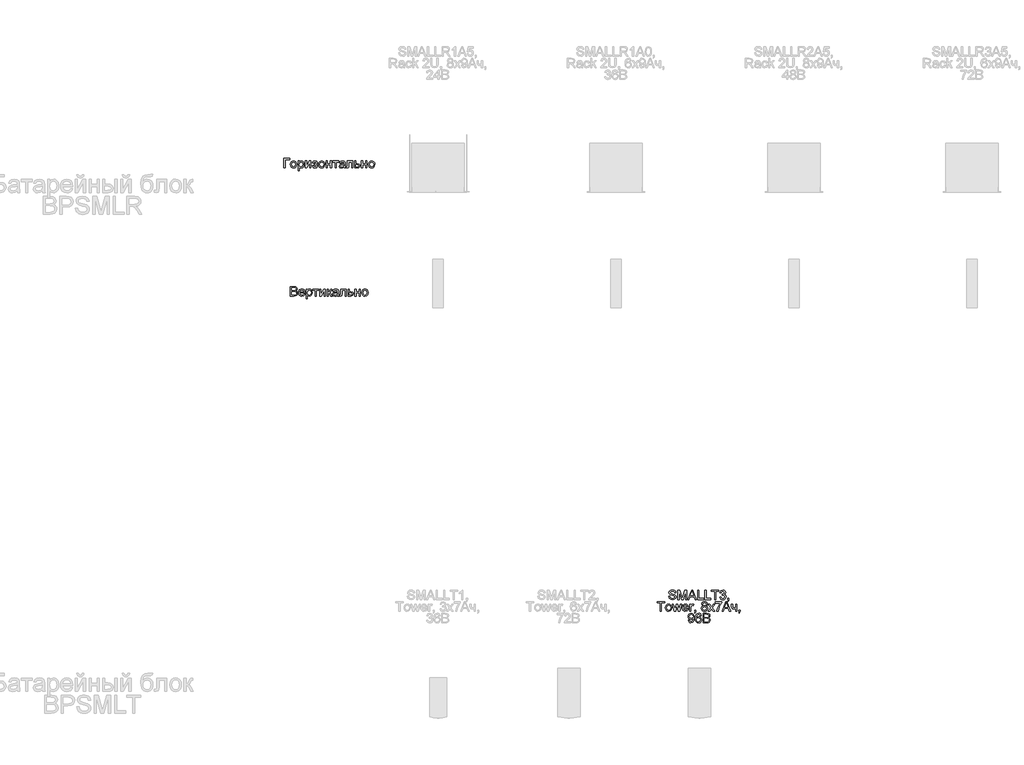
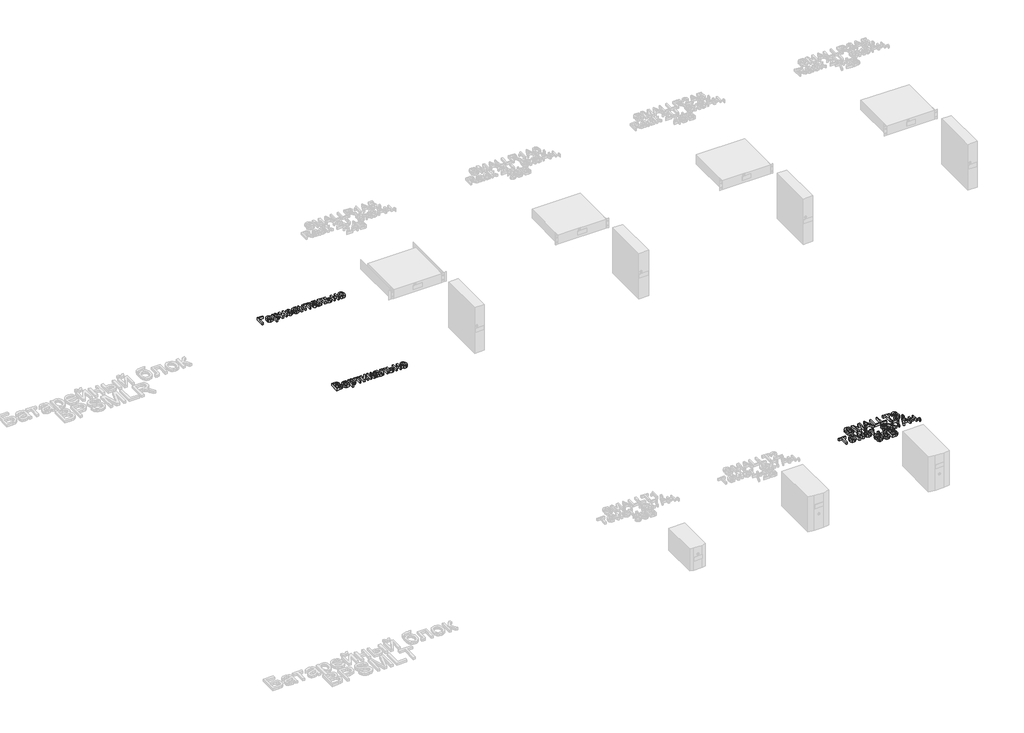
# One storey, part 15 of 74: 3 proxies.
"""IFC4 building model written with IfcOpenShell, lengths in millimetres."""

from ifc_helpers import new_model, si_unit, origin, origin_with_axes, place, context, project, spatial, polyline, outline, extrude, element, save

model = new_model("IFC4")

# Units and contexts
model_context = context("Model", 3, world=origin())
ifc_project = project(units=[si_unit("LENGTHUNIT", "METRE", prefix="MILLI")], contexts=[model_context])

# Site, building, storey
site = spatial("IfcSite", under=ifc_project)
building = spatial("IfcBuilding", under=site)
storey = spatial("IfcBuildingStorey", under=building, Name="Этаж 01", Elevation=0.0)

# Proxies
placement = place(None, origin())
element("IfcBuildingElementProxy", 1, Name="80 мм Arial", ObjectType="80 мм Arial", at=placement, inside=storey, context=model_context, shape_type="SweptSolid", body=[
    extrude(outline(polyline([(107.354428, -25110.0529622), (107.354428, -25029.6879141), (138.0210711, -25029.6879141), (153.0404667, -25032.052169), (161.9088753, -25039.3215172), (165.1168063, -25049.6025927), (162.419005, -25058.9909412), (154.26674, -25066.1033265), (164.1652182, -25073.598309), (167.6282141, -25086.0964867), (165.2639591, -25096.897502), (159.4072778, -25104.5886883), (150.6664016, -25108.6697259), (137.7856266, -25110.0529622), (107.354428, -25110.0529622)]), holes=[polyline([(117.400059, -25062.3362149), (135.7451078, -25062.3362149), (146.4578315, -25061.4729184), (152.9031241, -25057.7548577), (155.0711753, -25051.2114633), (153.0502769, -25044.6582587), (147.2622668, -25040.783235), (134.3520613, -25039.7335451), (117.400059, -25039.7335451), (117.400059, -25062.3362149)]), polyline([(117.400059, -25100.0073312), (138.0014507, -25100.0073312), (145.4571925, -25099.6149237), (151.7651425, -25097.4272521), (155.9442819, -25092.9636172), (157.5825831, -25086.1945885), (155.6597865, -25078.38568), (149.4303181, -25073.7258414), (137.0204321, -25072.3818459), (117.400059, -25072.3818459), (117.400059, -25100.0073312)])]), origin_with_axes(), (0.0, 0.0, 1.0), 20.0),
    extrude(outline(polyline([(221.5057586, -25092.4731079), (231.3551858, -25093.7288118), (222.1434207, -25106.6978784), (204.9854044, -25111.3086661), (193.1984653, -25109.3196507), (184.1289478, -25103.3526048), (178.3458429, -25093.7950305), (176.4181412, -25081.0344304), (178.3654633, -25067.8446346), (184.2074293, -25057.980492), (193.1543195, -25051.8295051), (204.4164136, -25049.7791761), (215.3277936, -25051.8246), (224.0465969, -25057.9608717), (229.7634831, -25067.8053938), (231.6691118, -25080.9755693), (231.6102507, -25083.6831808), (186.4637722, -25083.6831808), (192.2419721, -25096.7307289), (205.1816082, -25101.263035), (215.0310354, -25099.1636551), (221.5057586, -25092.4731079)]), holes=[polyline([(186.4637722, -25073.6375497), (221.6234808, -25073.6375497), (217.6013043, -25064.5336966), (204.3771729, -25059.8248071), (192.0065276, -25063.5821085), (186.4637722, -25073.6375497)])]), origin_with_axes(), (0.0, 0.0, 1.0), 20.0),
    extrude(outline(polyline([(241.7147428, -25132.655632), (241.7147428, -25051.03488), (251.7603738, -25051.03488), (251.7603738, -25060.8843072), (258.7059859, -25052.5554589), (268.0845242, -25049.7791761), (280.8181464, -25053.66401), (289.1371845, -25064.6121781), (291.9428979, -25080.0926525), (288.7742076, -25096.367752), (279.5722527, -25107.4532627), (266.8680611, -25111.3086661), (258.1271849, -25108.728587), (251.7603738, -25102.2048129), (251.7603738, -25132.655632), (241.7147428, -25132.655632)]), holes=[polyline([(251.7603738, -25081.01481), (256.1062865, -25096.318701), (266.652237, -25101.263035), (277.4140116, -25096.1421177), (281.8972669, -25080.2692358), (277.5219237, -25064.9261041), (267.0642648, -25059.8248071), (256.4005921, -25065.2498403), (251.7603738, -25081.01481)])]), origin_with_axes(), (0.0, 0.0, 1.0), 20.0),
    extrude(outline(polyline([(298.2214173, -25051.03488), (345.9381646, -25051.03488), (345.9381646, -25061.080511), (327.1026064, -25061.080511), (327.1026064, -25110.0529622), (317.0569754, -25110.0529622), (317.0569754, -25061.080511), (298.2214173, -25061.080511), (298.2214173, -25051.03488)])), origin_with_axes(), (0.0, 0.0, 1.0), 20.0),
    extrude(outline(polyline([(354.7280917, -25051.03488), (364.7737228, -25051.03488), (364.7737228, -25096.0440158), (389.4561521, -25051.03488), (402.4448391, -25051.03488), (402.4448391, -25110.0529622), (392.399208, -25110.0529622), (392.399208, -25065.3185116), (367.8737417, -25110.0529622), (354.7280917, -25110.0529622), (354.7280917, -25051.03488)])), origin_with_axes(), (0.0, 0.0, 1.0), 20.0),
    extrude(outline(polyline([(417.5132856, -25051.03488), (427.5589166, -25051.03488), (427.5589166, -25076.1489575), (434.2887046, -25074.3438832), (439.8020294, -25063.8273632), (444.3833865, -25054.7529407), (448.4251834, -25051.8000745), (455.7730131, -25051.03488), (457.6958096, -25051.03488), (457.6958096, -25061.1393721), (454.9881982, -25061.080511), (450.0831049, -25062.1400111), (446.6299192, -25068.7520769), (442.5783122, -25075.9037028), (436.8982142, -25079.4059394), (443.2355947, -25083.3152988), (449.455253, -25091.5509504), (460.2072174, -25110.0529622), (448.7881603, -25110.0529622), (438.2520199, -25091.9433578), (432.9545192, -25084.2816021), (427.5589166, -25082.4274769), (427.5589166, -25110.0529622), (417.5132856, -25110.0529622), (417.5132856, -25051.03488)])), origin_with_axes(), (0.0, 0.0, 1.0), 20.0),
    extrude(outline(polyline([(504.1568531, -25102.5187389), (494.4153379, -25109.3270084), (483.6535632, -25111.3086661), (469.0658158, -25106.5409154), (463.974329, -25094.3566637), (465.8971256, -25086.4104126), (470.9493717, -25080.6420229), (477.9832754, -25077.3458003), (486.6751007, -25075.8350315), (504.097992, -25072.3818459), (504.1568531, -25070.1451233), (501.3903805, -25062.7286223), (490.2852493, -25059.8248071), (480.1218961, -25061.7574138), (475.2756639, -25068.6147342), (465.2300329, -25067.3590304), (469.5759455, -25057.5488438), (478.3266319, -25051.8000745), (491.5801939, -25049.7791761), (503.7546354, -25051.56463), (510.6315762, -25056.0478853), (513.7119748, -25062.8659649), (514.2024841, -25071.6558921), (514.2024841, -25084.1540697), (514.7126138, -25101.6063916), (516.7138919, -25110.0529622), (506.6682608, -25110.0529622), (504.1568531, -25102.5187389)]), holes=[polyline([(504.1568531, -25082.4274769), (487.9504249, -25085.5078755), (479.3076506, -25087.1363664), (475.3933862, -25089.7851168), (474.01996, -25093.6503303), (477.0120669, -25099.0851736), (485.7921839, -25101.263035), (495.9555371, -25098.8595393), (502.5087417, -25093.0420987), (504.097992, -25085.272431), (504.1568531, -25082.4274769)])]), origin_with_axes(), (0.0, 0.0, 1.0), 20.0),
    extrude(outline(polyline([(533.0380423, -25051.03488), (578.2433818, -25051.03488), (578.2433818, -25109.9941011), (568.1977508, -25109.9941011), (568.1977508, -25061.080511), (543.0836733, -25061.080511), (543.0836733, -25089.2357463), (542.4067704, -25102.2244333), (538.6887097, -25107.7083276), (529.8987826, -25110.0529622), (521.7367074, -25109.5428325), (521.7367074, -25100.0073312), (526.2297728, -25100.0073312), (530.7718892, -25099.3892894), (532.5867737, -25097.4272521), (533.0380423, -25088.6667555), (533.0380423, -25051.03488)])), origin_with_axes(), (0.0, 0.0, 1.0), 20.0),
    extrude(outline(polyline([(593.3118283, -25051.03488), (603.3574594, -25051.03488), (603.3574594, -25072.3818459), (614.9334795, -25072.3818459), (632.3956115, -25077.4144716), (636.9867788, -25083.4011379), (638.5171679, -25091.2958855), (633.3079589, -25104.5494475), (626.5364776, -25108.6770835), (616.6404519, -25110.0529622), (593.3118283, -25110.0529622), (593.3118283, -25051.03488)]), holes=[polyline([(603.3574594, -25100.0073312), (612.7359977, -25100.0073312), (624.8515781, -25097.8981411), (628.4715369, -25091.3155059), (625.793356, -25085.1350884), (613.9328404, -25082.4274769), (603.3574594, -25082.4274769), (603.3574594, -25100.0073312)])]), origin_with_axes(), (0.0, 0.0, 1.0), 20.0),
    extrude(outline(polyline([(651.0742067, -25051.03488), (661.1198377, -25051.03488), (661.1198377, -25073.6375497), (687.4896191, -25073.6375497), (687.4896191, -25051.03488), (697.5352501, -25051.03488), (697.5352501, -25110.0529622), (687.4896191, -25110.0529622), (687.4896191, -25083.6831808), (661.1198377, -25083.6831808), (661.1198377, -25110.0529622), (651.0742067, -25110.0529622), (651.0742067, -25051.03488)])), origin_with_axes(), (0.0, 0.0, 1.0), 20.0),
    extrude(outline(polyline([(710.0922889, -25080.5439211), (712.2652452, -25066.3142455), (718.7841142, -25056.3127603), (726.8382773, -25051.4125721), (736.4816907, -25049.7791761), (747.0349989, -25051.7681914), (755.4644016, -25057.7352374), (760.9899892, -25067.209425), (762.8318517, -25079.7198654), (759.5748698, -25097.5940253), (750.0884194, -25107.7083276), (736.4816907, -25111.3086661), (725.8008501, -25109.3270084), (717.3812575, -25103.3820353), (711.914531, -25093.7091914), (710.0922889, -25080.5439211)]), holes=[polyline([(720.1379199, -25080.5243007), (724.7879483, -25096.0930667), (736.4816907, -25101.263035), (748.1361923, -25096.0636362), (752.7862207, -25080.2103747), (748.1067617, -25064.9947754), (736.4816907, -25059.8248071), (724.7879483, -25064.975155), (720.1379199, -25080.5243007)])]), origin_with_axes(), (0.0, 0.0, 1.0), 20.0),
])
element("IfcBuildingElementProxy", 2, Name="80 мм Arial", ObjectType="80 мм Arial", at=placement, inside=storey, context=model_context, shape_type="SweptSolid", body=[
    extrude(outline(polyline([(52.7313094, -23949.6879141), (102.9594644, -23949.6879141), (102.9594644, -23959.7335451), (62.7769404, -23959.7335451), (62.7769404, -24030.0529622), (52.7313094, -24030.0529622), (52.7313094, -23949.6879141)])), origin_with_axes(), (0.0, 0.0, 1.0), 20.0),
    extrude(outline(polyline([(107.9822799, -24000.5439211), (110.1552363, -23986.3142455), (116.6741052, -23976.3127603), (124.7282684, -23971.4125721), (134.3716817, -23969.7791761), (144.9249899, -23971.7681914), (153.3543927, -23977.7352374), (158.8799802, -23987.209425), (160.7218428, -23999.7198654), (157.4648608, -24017.5940253), (147.9784105, -24027.7083276), (134.3716817, -24031.3086661), (123.6908411, -24029.3270084), (115.2712485, -24023.3820353), (109.8045221, -24013.7091914), (107.9822799, -24000.5439211)]), holes=[polyline([(118.027911, -24000.5243007), (122.6779394, -24016.0930667), (134.3716817, -24021.263035), (146.0261833, -24016.0636362), (150.6762117, -24000.2103747), (145.9967528, -23984.9947754), (134.3716817, -23979.8248071), (122.6779394, -23984.975155), (118.027911, -24000.5243007)])]), origin_with_axes(), (0.0, 0.0, 1.0), 20.0),
    extrude(outline(polyline([(172.0231777, -24052.655632), (172.0231777, -23971.03488), (182.0688087, -23971.03488), (182.0688087, -23980.8843072), (189.0144207, -23972.5554589), (198.3929591, -23969.7791761), (211.1265812, -23973.66401), (219.4456194, -23984.6121781), (222.2513327, -24000.0926525), (219.0826425, -24016.367752), (209.8806875, -24027.4532627), (197.1764959, -24031.3086661), (188.4356197, -24028.728587), (182.0688087, -24022.2048129), (182.0688087, -24052.655632), (172.0231777, -24052.655632)]), holes=[polyline([(182.0688087, -24001.01481), (186.4147213, -24016.318701), (196.9606718, -24021.263035), (207.7224465, -24016.1421177), (212.2057017, -24000.2692358), (207.8303585, -23984.9261041), (197.3726997, -23979.8248071), (186.7090269, -23985.2498403), (182.0688087, -24001.01481)])]), origin_with_axes(), (0.0, 0.0, 1.0), 20.0),
    extrude(outline(polyline([(233.5526676, -23971.03488), (243.5982986, -23971.03488), (243.5982986, -24016.0440158), (268.280728, -23971.03488), (281.2694149, -23971.03488), (281.2694149, -24030.0529622), (271.2237839, -24030.0529622), (271.2237839, -23985.3185116), (246.6983176, -24030.0529622), (233.5526676, -24030.0529622), (233.5526676, -23971.03488)])), origin_with_axes(), (0.0, 0.0, 1.0), 20.0),
    extrude(outline(polyline([(310.1506041, -24003.6831808), (310.1506041, -23993.6375497), (318.0772348, -23993.2451423), (322.0797909, -23991.1555726), (323.9633468, -23986.7900395), (321.4421288, -23981.7181731), (314.9379751, -23979.8248071), (308.2179974, -23981.7083629), (303.8720847, -23987.3590304), (292.5707498, -23986.1033265), (300.1245935, -23973.8602137), (313.9177157, -23969.7791761), (328.6722363, -23974.7529407), (334.0089778, -23986.6330766), (332.1107067, -23992.8723552), (326.4158934, -23997.698967), (333.0573897, -24003.957866), (335.2646816, -24012.9636172), (333.8642775, -24020.3580453), (329.6630651, -24026.2171792), (313.9961972, -24031.3086661), (298.5451534, -24026.5997765), (291.315046, -24012.4731079), (302.6163809, -24011.217404), (307.148687, -24018.633905), (314.9575955, -24021.263035), (322.295615, -24018.7418171), (325.2190506, -24012.2965245), (323.4041661, -24007.0186442), (319.5389526, -24004.1933105), (312.1126414, -24003.6243196), (310.1506041, -24003.6831808)])), origin_with_axes(), (0.0, 0.0, 1.0), 20.0),
    extrude(outline(polyline([(345.3103127, -24000.5439211), (347.483269, -23986.3142455), (354.0021379, -23976.3127603), (362.0563011, -23971.4125721), (371.6997145, -23969.7791761), (382.2530226, -23971.7681914), (390.6824254, -23977.7352374), (396.208013, -23987.209425), (398.0498755, -23999.7198654), (394.7928936, -24017.5940253), (385.3064432, -24027.7083276), (371.6997145, -24031.3086661), (361.0188739, -24029.3270084), (352.5992813, -24023.3820353), (347.1325548, -24013.7091914), (345.3103127, -24000.5439211)]), holes=[polyline([(355.3559437, -24000.5243007), (360.0059721, -24016.0930667), (371.6997145, -24021.263035), (383.3542161, -24016.0636362), (388.0042445, -24000.2103747), (383.3247855, -23984.9947754), (371.6997145, -23979.8248071), (360.0059721, -23984.975155), (355.3559437, -24000.5243007)])]), origin_with_axes(), (0.0, 0.0, 1.0), 20.0),
    extrude(outline(polyline([(409.3512104, -23971.03488), (419.3968414, -23971.03488), (419.3968414, -23993.6375497), (445.7666228, -23993.6375497), (445.7666228, -23971.03488), (455.8122538, -23971.03488), (455.8122538, -24030.0529622), (445.7666228, -24030.0529622), (445.7666228, -24003.6831808), (419.3968414, -24003.6831808), (419.3968414, -24030.0529622), (409.3512104, -24030.0529622), (409.3512104, -23971.03488)])), origin_with_axes(), (0.0, 0.0, 1.0), 20.0),
    extrude(outline(polyline([(465.8578848, -23971.03488), (513.5746322, -23971.03488), (513.5746322, -23981.080511), (494.739074, -23981.080511), (494.739074, -24030.0529622), (484.693443, -24030.0529622), (484.693443, -23981.080511), (465.8578848, -23981.080511), (465.8578848, -23971.03488)])), origin_with_axes(), (0.0, 0.0, 1.0), 20.0),
    extrude(outline(polyline([(560.0356756, -24022.5187389), (550.2941604, -24029.3270084), (539.5323857, -24031.3086661), (524.9446384, -24026.5409154), (519.8531515, -24014.3566637), (521.7759481, -24006.4104126), (526.8281942, -24000.6420229), (533.8620979, -23997.3458003), (542.5539232, -23995.8350315), (559.9768145, -23992.3818459), (560.0356756, -23990.1451233), (557.269203, -23982.7286223), (546.1640718, -23979.8248071), (536.0007186, -23981.7574138), (531.1544864, -23988.6147342), (521.1088554, -23987.3590304), (525.4547681, -23977.5488438), (534.2054545, -23971.8000745), (547.4590165, -23969.7791761), (559.633458, -23971.56463), (566.5103987, -23976.0478853), (569.5907973, -23982.8659649), (570.0813066, -23991.6558921), (570.0813066, -24004.1540697), (570.5914363, -24021.6063916), (572.5927144, -24030.0529622), (562.5470834, -24030.0529622), (560.0356756, -24022.5187389)]), holes=[polyline([(560.0356756, -24002.4274769), (543.8292474, -24005.5078755), (535.1864731, -24007.1363664), (531.2722087, -24009.7851168), (529.8987826, -24013.6503303), (532.8908895, -24019.0851736), (541.6710064, -24021.263035), (551.8343597, -24018.8595393), (558.3875643, -24013.0420987), (559.9768145, -24005.272431), (560.0356756, -24002.4274769)])]), origin_with_axes(), (0.0, 0.0, 1.0), 20.0),
    extrude(outline(polyline([(588.9168648, -23971.03488), (634.1222043, -23971.03488), (634.1222043, -24029.9941011), (624.0765733, -24029.9941011), (624.0765733, -23981.080511), (598.9624958, -23981.080511), (598.9624958, -24009.2357463), (598.2855929, -24022.2244333), (594.5675322, -24027.7083276), (585.7776051, -24030.0529622), (577.6155299, -24029.5428325), (577.6155299, -24020.0073312), (582.1085953, -24020.0073312), (586.6507117, -24019.3892894), (588.4655962, -24017.4272521), (588.9168648, -24008.6667555), (588.9168648, -23971.03488)])), origin_with_axes(), (0.0, 0.0, 1.0), 20.0),
    extrude(outline(polyline([(649.1906509, -23971.03488), (659.2362819, -23971.03488), (659.2362819, -23992.3818459), (670.812302, -23992.3818459), (688.274434, -23997.4144716), (692.8656013, -24003.4011379), (694.3959904, -24011.2958855), (689.1867814, -24024.5494475), (682.4153001, -24028.6770835), (672.5192745, -24030.0529622), (649.1906509, -24030.0529622), (649.1906509, -23971.03488)]), holes=[polyline([(659.2362819, -24020.0073312), (668.6148202, -24020.0073312), (680.7304006, -24017.8981411), (684.3503594, -24011.3155059), (681.6721785, -24005.1350884), (669.811663, -24002.4274769), (659.2362819, -24002.4274769), (659.2362819, -24020.0073312)])]), origin_with_axes(), (0.0, 0.0, 1.0), 20.0),
    extrude(outline(polyline([(706.9530292, -23971.03488), (716.9986602, -23971.03488), (716.9986602, -23993.6375497), (743.3684416, -23993.6375497), (743.3684416, -23971.03488), (753.4140726, -23971.03488), (753.4140726, -24030.0529622), (743.3684416, -24030.0529622), (743.3684416, -24003.6831808), (716.9986602, -24003.6831808), (716.9986602, -24030.0529622), (706.9530292, -24030.0529622), (706.9530292, -23971.03488)])), origin_with_axes(), (0.0, 0.0, 1.0), 20.0),
    extrude(outline(polyline([(765.9711114, -24000.5439211), (768.1440677, -23986.3142455), (774.6629367, -23976.3127603), (782.7170998, -23971.4125721), (792.3605132, -23969.7791761), (802.9138214, -23971.7681914), (811.3432242, -23977.7352374), (816.8688117, -23987.209425), (818.7106742, -23999.7198654), (815.4536923, -24017.5940253), (805.9672419, -24027.7083276), (792.3605132, -24031.3086661), (781.6796726, -24029.3270084), (773.26008, -24023.3820353), (767.7933536, -24013.7091914), (765.9711114, -24000.5439211)]), holes=[polyline([(776.0167424, -24000.5243007), (780.6667708, -24016.0930667), (792.3605132, -24021.263035), (804.0150148, -24016.0636362), (808.6650432, -24000.2103747), (803.9855843, -23984.9947754), (792.3605132, -23979.8248071), (780.6667708, -23984.975155), (776.0167424, -24000.5243007)])]), origin_with_axes(), (0.0, 0.0, 1.0), 20.0),
])
element("IfcBuildingElementProxy", 3, Name="80 мм Arial", ObjectType="80 мм Arial", at=placement, inside=storey, context=model_context, shape_type="SweptSolid", body=[
    extrude(outline(polyline([(3296.0620086, -27640.6321793), (3306.1076397, -27640.6321793), (3309.3450012, -27650.6876205), (3317.2520116, -27657.0446214), (3329.2989206, -27659.4677375), (3339.7958202, -27657.6332326), (3346.5746591, -27652.5907967), (3348.8015715, -27645.8511986), (3347.1338398, -27639.5824894), (3340.3059499, -27635.0207526), (3325.6789618, -27631.1849697), (3309.9336124, -27626.2308255), (3301.3889399, -27618.7554634), (3298.5734164, -27608.7686935), (3302.0560326, -27597.3986873), (3312.2291961, -27589.3739547), (3327.1210592, -27586.6369126), (3343.0135614, -27589.5014871), (3353.6085629, -27597.9186271), (3357.5914986, -27610.4952863), (3347.5458676, -27610.4952863), (3341.8559594, -27600.17497), (3327.5134667, -27596.6825436), (3313.1317332, -27600.1357293), (3308.6190474, -27608.4743879), (3311.8171682, -27615.4396203), (3328.2198001, -27621.051047), (3345.9958581, -27626.0934829), (3355.717753, -27634.2359377), (3358.8472025, -27645.5961337), (3355.246864, -27657.6136122), (3344.887307, -27666.383919), (3329.6913281, -27669.5133685), (3311.7484969, -27666.1386643), (3300.3981111, -27655.9753111), (3296.0620086, -27640.6321793)])), origin_with_axes(), (0.0, 0.0, 1.0), 20.0),
    extrude(outline(polyline([(3373.915649, -27668.2576646), (3373.915649, -27587.8926165), (3391.2011977, -27587.8926165), (3407.6430703, -27644.5366336), (3410.9589134, -27656.3677185), (3414.5494416, -27643.5556149), (3430.7166291, -27587.8926165), (3448.0021777, -27587.8926165), (3448.0021777, -27668.2576646), (3437.9565467, -27668.2576646), (3437.9565467, -27597.9382475), (3417.7671828, -27668.2576646), (3404.1506439, -27668.2576646), (3383.96128, -27597.9382475), (3383.96128, -27668.2576646), (3373.915649, -27668.2576646)])), origin_with_axes(), (0.0, 0.0, 1.0), 20.0),
    extrude(outline(polyline([(3456.2231141, -27668.2576646), (3488.302424, -27587.8926165), (3496.8569067, -27587.8926165), (3528.9362167, -27668.2576646), (3518.3215948, -27668.2576646), (3509.1196399, -27643.1435871), (3476.0200705, -27643.1435871), (3466.8377359, -27668.2576646), (3456.2231141, -27668.2576646)]), holes=[polyline([(3479.7087006, -27633.0979561), (3505.4506301, -27633.0979561), (3498.2107124, -27613.3402404), (3492.5796654, -27597.9382475), (3487.5764702, -27611.6136476), (3479.7087006, -27633.0979561)])]), origin_with_axes(), (0.0, 0.0, 1.0), 20.0),
    extrude(outline(polyline([(3539.6685607, -27668.2576646), (3539.6685607, -27587.8926165), (3549.7141918, -27587.8926165), (3549.7141918, -27658.2120336), (3589.8967158, -27658.2120336), (3589.8967158, -27668.2576646), (3539.6685607, -27668.2576646)])), origin_with_axes(), (0.0, 0.0, 1.0), 20.0),
    extrude(outline(polyline([(3601.1980507, -27668.2576646), (3601.1980507, -27587.8926165), (3611.2436817, -27587.8926165), (3611.2436817, -27658.2120336), (3651.4262058, -27658.2120336), (3651.4262058, -27668.2576646), (3601.1980507, -27668.2576646)])), origin_with_axes(), (0.0, 0.0, 1.0), 20.0),
    extrude(outline(polyline([(3682.8188027, -27668.2576646), (3682.8188027, -27597.9382475), (3656.4490213, -27597.9382475), (3656.4490213, -27587.8926165), (3719.2342151, -27587.8926165), (3719.2342151, -27597.9382475), (3692.8644337, -27597.9382475), (3692.8644337, -27668.2576646), (3682.8188027, -27668.2576646)])), origin_with_axes(), (0.0, 0.0, 1.0), 20.0),
    extrude(outline(polyline([(3726.7684384, -27646.9106987), (3736.8140694, -27645.6549948), (3742.3568248, -27656.2303759), (3752.726192, -27659.4677375), (3764.930064, -27655.0139128), (3769.4623702, -27643.9872631), (3764.9693048, -27633.5982756), (3753.5502477, -27629.4878074), (3746.5065337, -27630.5865483), (3747.624895, -27620.5409173), (3749.2337656, -27620.6586395), (3760.6332023, -27617.7744447), (3765.6952586, -27608.9060361), (3762.0262488, -27601.0480767), (3752.569229, -27597.9382475), (3742.9944869, -27601.0775072), (3738.0697733, -27610.4952863), (3728.0241423, -27609.2395824), (3736.2450786, -27593.4844228), (3752.2160623, -27587.8926165), (3764.3316427, -27590.6492789), (3772.8076438, -27598.1835022), (3775.7408896, -27608.3174249), (3772.9547966, -27617.578241), (3764.7142399, -27624.2295474), (3775.6624081, -27631.096678), (3779.5080012, -27644.1638465), (3777.5852047, -27653.9544127), (3771.816815, -27662.1361082), (3763.1102744, -27667.6690534), (3752.3730253, -27669.5133685), (3742.6609406, -27667.9388336), (3734.7539302, -27663.2152287), (3729.2553207, -27655.9900264), (3726.7684384, -27646.9106987)])), origin_with_axes(), (0.0, 0.0, 1.0), 20.0),
    extrude(outline(polyline([(3793.3207439, -27668.2576646), (3793.3207439, -27658.2120336), (3803.3663749, -27658.2120336), (3803.3663749, -27668.2576646), (3801.5613006, -27678.5289299), (3795.8321516, -27684.581815), (3793.3207439, -27680.8147034), (3797.009374, -27676.4786009), (3798.323939, -27668.2576646), (3793.3207439, -27668.2576646)])), origin_with_axes(), (0.0, 0.0, 1.0), 20.0),
    extrude(outline(polyline([(3225.1147396, -27765.8375189), (3225.1147396, -27695.5181018), (3198.7449582, -27695.5181018), (3198.7449582, -27685.4724708), (3261.530152, -27685.4724708), (3261.530152, -27695.5181018), (3235.1603706, -27695.5181018), (3235.1603706, -27765.8375189), (3225.1147396, -27765.8375189)])), origin_with_axes(), (0.0, 0.0, 1.0), 20.0),
    extrude(outline(polyline([(3269.0643753, -27736.3284778), (3271.2373316, -27722.0988022), (3277.7562006, -27712.097317), (3285.8103637, -27707.1971289), (3295.4537771, -27705.5637328), (3306.0070852, -27707.5527481), (3314.436488, -27713.5197941), (3319.9620756, -27722.9939817), (3321.8039381, -27735.5044221), (3318.5469562, -27753.378582), (3309.0605058, -27763.4928843), (3295.4537771, -27767.0932228), (3284.7729365, -27765.1115651), (3276.3533439, -27759.1665921), (3270.8866174, -27749.4937481), (3269.0643753, -27736.3284778)]), holes=[polyline([(3279.1100063, -27736.3088574), (3283.7600347, -27751.8776235), (3295.4537771, -27757.0475918), (3307.1082787, -27751.8481929), (3311.7583071, -27735.9949315), (3307.0788481, -27720.7793321), (3295.4537771, -27715.6093638), (3283.7600347, -27720.7597118), (3279.1100063, -27736.3088574)])]), origin_with_axes(), (0.0, 0.0, 1.0), 20.0),
    extrude(outline(polyline([(3342.8958392, -27765.8375189), (3324.9431978, -27706.8194367), (3335.3812363, -27706.8194367), (3345.5642099, -27741.2531914), (3348.6053677, -27753.5551654), (3351.0971551, -27741.70446), (3359.2003692, -27706.8194367), (3371.1687968, -27706.8194367), (3379.2327701, -27741.6063582), (3381.4498723, -27752.3387022), (3384.6283727, -27741.017747), (3394.8309667, -27706.8194367), (3405.3082459, -27706.8194367), (3387.2182619, -27765.8375189), (3375.073251, -27765.8375189), (3367.3624444, -27731.2271808), (3365.1257219, -27720.4359756), (3355.1781927, -27765.8375189), (3342.8958392, -27765.8375189)])), origin_with_axes(), (0.0, 0.0, 1.0), 20.0),
    extrude(outline(polyline([(3453.5351229, -27748.2576646), (3463.3845502, -27749.5133685), (3454.1727851, -27762.4824351), (3437.0147688, -27767.0932228), (3425.2278297, -27765.1042075), (3416.1583122, -27759.1371615), (3410.3752073, -27749.5795873), (3408.4475056, -27736.8189871), (3410.3948276, -27723.6291913), (3416.2367937, -27713.7650488), (3425.1836838, -27707.6140618), (3436.445778, -27705.5637328), (3447.357158, -27707.6091567), (3456.0759613, -27713.7454284), (3461.7928475, -27723.5899506), (3463.6984762, -27736.760126), (3463.6396151, -27739.4677375), (3418.4931366, -27739.4677375), (3424.2713365, -27752.5152856), (3437.2109725, -27757.0475918), (3447.0603998, -27754.9482118), (3453.5351229, -27748.2576646)]), holes=[polyline([(3418.4931366, -27729.4221065), (3453.6528452, -27729.4221065), (3449.6306687, -27720.3182534), (3436.4065372, -27715.6093638), (3424.035892, -27719.3666653), (3418.4931366, -27729.4221065)])]), origin_with_axes(), (0.0, 0.0, 1.0), 20.0),
    extrude(outline(polyline([(3473.7441072, -27765.8375189), (3473.7441072, -27706.8194367), (3482.5340344, -27706.8194367), (3482.5340344, -27715.5505027), (3488.773313, -27707.5061497), (3495.0518324, -27705.5637328), (3505.1367041, -27708.6637518), (3501.7816203, -27717.669503), (3494.718286, -27715.6093638), (3489.038188, -27717.5910215), (3485.4182292, -27723.084726), (3483.7897382, -27734.8177091), (3483.7897382, -27765.8375189), (3473.7441072, -27765.8375189)])), origin_with_axes(), (0.0, 0.0, 1.0), 20.0),
    extrude(outline(polyline([(3513.9266313, -27765.8375189), (3513.9266313, -27755.7918879), (3523.9722623, -27755.7918879), (3523.9722623, -27765.8375189), (3522.167188, -27776.1087842), (3516.438039, -27782.1616693), (3513.9266313, -27778.3945577), (3517.6152614, -27774.0584552), (3518.9298264, -27765.8375189), (3513.9266313, -27765.8375189)])), origin_with_axes(), (0.0, 0.0, 1.0), 20.0),
    extrude(outline(polyline([(3586.3258079, -27721.5739572), (3577.1729039, -27715.3346786), (3574.2004174, -27705.6225939), (3575.8190981, -27697.7695396), (3580.6751405, -27691.2801012), (3588.224079, -27686.9243784), (3597.9214484, -27685.4724708), (3607.6776789, -27686.958714), (3615.3247193, -27691.4174438), (3620.2690533, -27698.0098892), (3621.9171647, -27705.8972792), (3618.9839189, -27715.3641092), (3610.0860797, -27721.5739572), (3620.7693729, -27729.451537), (3624.4285724, -27742.4500342), (3622.6136879, -27752.0542068), (3617.1690344, -27759.9906477), (3608.7617045, -27765.317579), (3598.058791, -27767.0932228), (3587.3558775, -27765.3102214), (3578.9485476, -27759.9612172), (3573.5038941, -27751.9487473), (3571.6890096, -27742.175349), (3575.495362, -27728.872736), (3586.3258079, -27721.5739572)]), holes=[polyline([(3584.2460484, -27705.9168995), (3587.8071461, -27713.8042895), (3598.1765133, -27716.8650677), (3608.3398665, -27713.8239099), (3611.8715337, -27706.3681681), (3608.2221443, -27698.6475513), (3598.058791, -27695.5181018), (3587.8660072, -27698.57888), (3584.2460484, -27705.9168995)]), polyline([(3581.7346406, -27741.8221823), (3583.4121825, -27749.3858361), (3589.3473454, -27755.0463137), (3598.1372725, -27757.0475918), (3610.1057001, -27752.8390217), (3614.3829414, -27742.1361082), (3609.9683575, -27731.2271808), (3597.8037262, -27726.9106987), (3585.9824514, -27731.1683197), (3581.7346406, -27741.8221823)])]), origin_with_axes(), (0.0, 0.0, 1.0), 20.0),
    extrude(outline(polyline([(3629.4513879, -27765.8375189), (3650.9160761, -27736.1715148), (3630.7070918, -27706.8194367), (3642.7932416, -27706.8194367), (3652.5445671, -27720.9461053), (3657.0964936, -27727.6170321), (3661.0401886, -27722.1625684), (3672.1453198, -27706.8194367), (3684.2314696, -27706.8194367), (3663.0022259, -27736.1715148), (3683.4466547, -27765.8375189), (3671.3605048, -27765.8375189), (3659.0585309, -27748.0025998), (3656.802188, -27744.7456178), (3641.5375378, -27765.8375189), (3629.4513879, -27765.8375189)])), origin_with_axes(), (0.0, 0.0, 1.0), 20.0),
    extrude(outline(polyline([(3689.725174, -27696.7738057), (3689.725174, -27686.7281747), (3742.4647369, -27686.7281747), (3742.4647369, -27694.8510091), (3727.5042024, -27716.4628501), (3716.0557147, -27744.0000437), (3712.3278438, -27765.8375189), (3702.2822128, -27765.8375189), (3706.2749587, -27743.175988), (3717.2329371, -27717.5615909), (3732.4191058, -27696.7738057), (3689.725174, -27696.7738057)])), origin_with_axes(), (0.0, 0.0, 1.0), 20.0),
    extrude(outline(polyline([(3745.6628577, -27765.8375189), (3777.7421677, -27685.4724708), (3786.2966503, -27685.4724708), (3818.3759603, -27765.8375189), (3807.7613385, -27765.8375189), (3798.5593835, -27740.7234414), (3765.4598141, -27740.7234414), (3756.2774795, -27765.8375189), (3745.6628577, -27765.8375189)]), holes=[polyline([(3769.1484442, -27730.6778103), (3794.8903737, -27730.6778103), (3787.6504561, -27710.9200947), (3782.019409, -27695.5181018), (3777.0162138, -27709.1935018), (3769.1484442, -27730.6778103)])]), origin_with_axes(), (0.0, 0.0, 1.0), 20.0),
    extrude(outline(polyline([(3824.0854889, -27706.8194367), (3834.1311199, -27706.8194367), (3834.1311199, -27718.140392), (3834.9453654, -27728.7550138), (3838.8596298, -27734.5037831), (3846.6292975, -27736.9563297), (3860.5009013, -27733.9151719), (3860.5009013, -27706.8194367), (3870.5465323, -27706.8194367), (3870.5465323, -27765.8375189), (3860.5009013, -27765.8375189), (3860.5009013, -27743.5487751), (3843.9413064, -27747.0019607), (3832.5516798, -27743.4016223), (3825.8513224, -27734.5822646), (3824.0854889, -27723.1043463), (3824.0854889, -27706.8194367)])), origin_with_axes(), (0.0, 0.0, 1.0), 20.0),
    extrude(outline(polyline([(3888.1263866, -27765.8375189), (3888.1263866, -27755.7918879), (3898.1720176, -27755.7918879), (3898.1720176, -27765.8375189), (3896.3669433, -27776.1087842), (3890.6377943, -27782.1616693), (3888.1263866, -27778.3945577), (3891.8150167, -27774.0584552), (3893.1295817, -27765.8375189), (3888.1263866, -27765.8375189)])), origin_with_axes(), (0.0, 0.0, 1.0), 20.0),
    extrude(outline(polyline([(3460.5592165, -27843.3261111), (3470.6048475, -27842.0704073), (3475.1175333, -27851.6549595), (3483.672016, -27854.627446), (3491.8046606, -27852.7144597), (3497.3179855, -27847.6033525), (3500.604398, -27838.8722865), (3502.0563056, -27827.2177849), (3501.9974444, -27825.2557475), (3493.9629017, -27832.8684523), (3482.9460622, -27835.7918879), (3473.7858005, -27834.0064339), (3466.160833, -27828.6500721), (3461.0178427, -27820.3751797), (3459.3035126, -27809.8341343), (3461.1012293, -27798.9448272), (3466.4943794, -27790.409965), (3474.5951409, -27784.891735), (3484.515692, -27783.0523251), (3498.8287542, -27787.2510849), (3508.6781815, -27799.2195125), (3512.0430755, -27821.70446), (3508.6879917, -27846.1023939), (3498.711032, -27859.9249468), (3483.201127, -27864.6730771), (3474.6123087, -27863.2726729), (3467.7598934, -27859.0714605), (3460.5592165, -27843.3261111)]), holes=[polyline([(3501.9974444, -27809.5986898), (3497.661342, -27797.5517808), (3486.144183, -27793.0979561), (3474.0580332, -27797.8951373), (3469.3491436, -27810.3246436), (3473.8029683, -27821.4592054), (3485.8694978, -27825.7462569), (3497.4553281, -27821.4592054), (3501.9974444, -27809.5986898)])]), origin_with_axes(), (0.0, 0.0, 1.0), 20.0),
    extrude(outline(polyline([(3572.3168615, -27804.399291), (3562.2712305, -27805.6549948), (3558.4648782, -27797.2770955), (3548.3996268, -27793.0979561), (3539.3350144, -27795.5308823), (3532.477694, -27804.664166), (3529.6229297, -27822.5677564), (3538.4815282, -27814.552834), (3549.4591269, -27811.9335142), (3558.7395634, -27813.7238733), (3566.5288515, -27819.0949504), (3571.8116369, -27827.3011714), (3573.5725654, -27837.5969622), (3570.2567224, -27851.4587558), (3561.1332489, -27861.2689423), (3547.9679786, -27864.6730771), (3536.5709943, -27862.4167341), (3527.4941193, -27855.6477054), (3521.5565039, -27843.6988982), (3519.5772987, -27825.9032199), (3521.7747805, -27805.8953444), (3528.3672259, -27792.2150393), (3537.368072, -27785.3430036), (3549.0274787, -27783.0523251), (3557.8419313, -27784.469897), (3564.9003605, -27788.7226129), (3572.3168615, -27804.399291)]), holes=[polyline([(3529.6229297, -27837.4399992), (3531.9479439, -27846.1416347), (3538.1283615, -27852.4593948), (3547.1831636, -27854.627446), (3559.0240588, -27850.1343806), (3563.5269344, -27837.9305086), (3559.0829199, -27826.2465764), (3546.7711358, -27821.9791452), (3534.6163147, -27826.2465764), (3529.6229297, -27837.4399992)])]), origin_with_axes(), (0.0, 0.0, 1.0), 20.0),
    extrude(outline(polyline([(3586.1296042, -27863.4173732), (3586.1296042, -27783.0523251), (3616.7962473, -27783.0523251), (3631.8156429, -27785.41658), (3640.6840515, -27792.6859282), (3643.8919825, -27802.9670037), (3641.1941812, -27812.3553522), (3633.0419162, -27819.4677375), (3642.9403944, -27826.96272), (3646.4033903, -27839.4608977), (3644.0391353, -27850.261913), (3638.182454, -27857.9530993), (3629.4415778, -27862.0341369), (3616.5608028, -27863.4173732), (3586.1296042, -27863.4173732)]), holes=[polyline([(3596.1752352, -27853.3717422), (3616.7766269, -27853.3717422), (3624.2323687, -27852.9793347), (3630.5403187, -27850.7916631), (3634.7194581, -27846.3280282), (3636.3577593, -27839.5589995), (3634.4349627, -27831.750091), (3628.2054943, -27827.0902524), (3615.7956083, -27825.7462569), (3596.1752352, -27825.7462569), (3596.1752352, -27853.3717422)]), polyline([(3596.1752352, -27815.7006259), (3614.520284, -27815.7006259), (3625.2330077, -27814.8373294), (3631.6783003, -27811.1192687), (3633.8463515, -27804.5758743), (3631.8254531, -27798.0226697), (3626.037443, -27794.147646), (3613.1272375, -27793.0979561), (3596.1752352, -27793.0979561), (3596.1752352, -27815.7006259)])]), origin_with_axes(), (0.0, 0.0, 1.0), 20.0),
])

save(model, "model.ifc")
